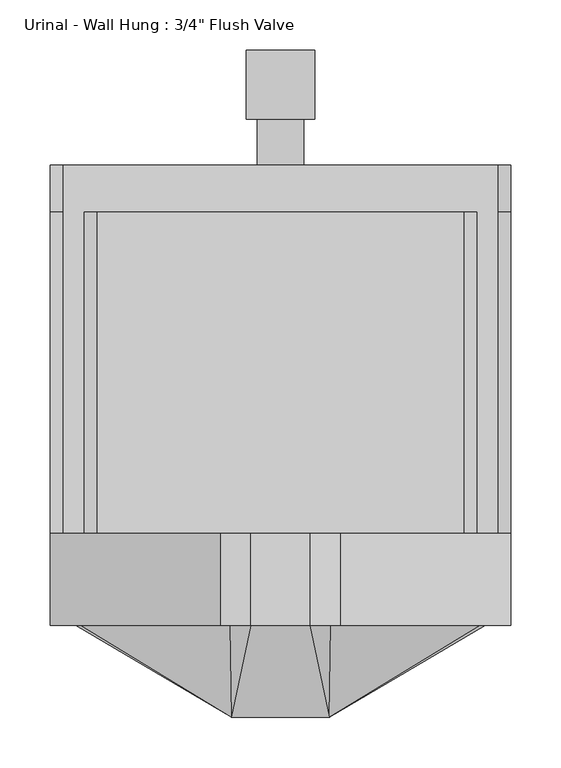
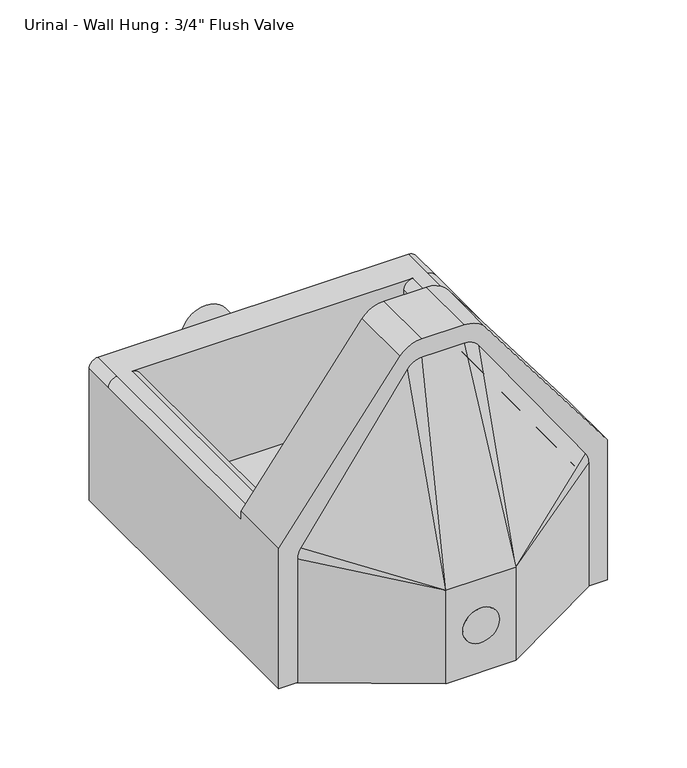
"""IFC4 building model written with IfcOpenShell, lengths in millimetres: flow terminal geometry."""

from ifc_helpers import new_model, si_unit, point, frame, frame_2d, origin, place, context, project, spatial, circle_curve, trimmed, segment, composite_curve, outline, extrude, source, transform, mapped, element, save
from ifc_brep_helpers import plane_surface, cylinder_surface, spline_surface, advanced_brep


def flow_terminal_2caf3f76(model_context):
    return source(origin(), model_context, "Body", "SolidModel", [
        extrude(outline(composite_curve([segment(trimmed(circle_curve(frame_2d((68.659375, 0.0)), 25.4), [point((68.659375, -25.4))], [point((68.659375, 25.4))], False, "CARTESIAN"), True, "CONTINUOUS"), segment(trimmed(circle_curve(frame_2d((68.659375, 0.0)), 25.4), [point((68.659375, 25.4))], [point((68.659375, -25.4))], False, "CARTESIAN"), True, "CONTINUOUS")], self_intersect=False)), frame((0.0, -182.5625, 0.0), z_axis=(0.0, 1.0, 0.0), x_axis=(0.0, 0.0, 1.0)), (0.0, 0.0, 1.0), 91.28125),
        advanced_brep(
        [(228.6, -91.28125, 0.0), (-228.6, -91.28125, 0.0), (-228.6, 365.91875, 0.0), (228.6, 365.91875, 0.0), (-59.8511275, 0.0, 429.3407681), (-29.4318712, 0.0, 444.5), (29.4318712, 0.0, 444.5), (59.8511275, 0.0, 429.3407681), (228.6, 0.0, 205.58125), (228.6, 0.0, 192.88125), (215.9, 0.0, 205.58125), (195.2625, 0.0, 205.58125), (182.5625, 0.0, 192.88125), (182.5625, 0.0, 183.5881239), (31.5245701, 0.0, 398.4625), (-31.5245701, 0.0, 398.4625), (-182.5625, 0.0, 183.5881239), (-182.5625, 0.0, 192.88125), (-195.2625, 0.0, 205.58125), (-215.9, 0.0, 205.58125), (-228.6, 0.0, 192.88125), (-228.6, 0.0, 205.58125), (-228.6, -91.28125, 205.58125), (-228.6, 319.88125, 192.88125), (-228.6, 365.91875, 192.88125), (228.6, -91.28125, 205.58125), (59.8511275, -91.28125, 429.3407681), (29.4318712, -91.28125, 444.5), (-29.4318712, -91.28125, 444.5), (-59.8511275, -91.28125, 429.3407681), (31.5245701, -91.28125, 398.4625), (182.5625, -91.28125, 183.5881239), (182.5625, -91.28125, 25.4), (-182.5625, -91.28125, 25.4), (-182.5625, -91.28125, 183.5881239), (-31.5245701, -91.28125, 398.4625), (228.6, 365.91875, 192.88125), (228.6, 319.88125, 192.88125), (-182.5625, 319.88125, 25.4), (-182.5625, 319.88125, 192.88125), (182.5625, 319.88125, 25.4), (182.5625, 319.88125, 192.88125), (195.2625, 319.88125, 205.58125), (-195.2625, 319.88125, 205.58125), (215.9, 365.91875, 205.58125), (-215.9, 365.91875, 205.58125), (-215.9, 319.88125, 205.58125), (215.9, 319.88125, 205.58125)],
        [
            (0, 1),
            (1, 2),
            (2, 3),
            (3, 0),
            (4, 5, circle_curve(frame((-29.4318712, 0.0, 406.4), z_axis=(0.0, 1.0, 0.0), x_axis=(1.0, 0.0, 0.0)), 38.1)),
            (5, 6),
            (6, 7, circle_curve(frame((29.4318712, 0.0, 406.4), z_axis=(0.0, 1.0, 0.0), x_axis=(1.0, 0.0, 0.0)), 38.1)),
            (7, 8),
            (8, 9),
            (9, 10, circle_curve(frame((215.9, 0.0, 192.88125), z_axis=(0.0, -1.0, 0.0), x_axis=(1.0, 0.0, 0.0)), 12.7)),
            (10, 11),
            (11, 12, circle_curve(frame((195.2625, 0.0, 192.88125), z_axis=(0.0, -1.0, 0.0), x_axis=(1.0, 0.0, 0.0)), 12.7)),
            (12, 13),
            (13, 14),
            (14, 15),
            (15, 16),
            (16, 17),
            (17, 18, circle_curve(frame((-195.2625, 0.0, 192.88125), z_axis=(0.0, -1.0, 0.0), x_axis=(1.0, 0.0, 0.0)), 12.7)),
            (18, 19),
            (19, 20, circle_curve(frame((-215.9, 0.0, 192.88125), z_axis=(0.0, -1.0, 0.0), x_axis=(1.0, 0.0, 0.0)), 12.7)),
            (20, 21),
            (21, 4),
            (1, 22),
            (22, 21),
            (20, 23),
            (23, 24),
            (24, 2),
            (0, 25),
            (25, 26),
            (26, 27, circle_curve(frame((29.4318712, -91.28125, 406.4), z_axis=(0.0, -1.0, 0.0), x_axis=(1.0, 0.0, 0.0)), 38.1)),
            (27, 28),
            (28, 29, circle_curve(frame((-29.4318712, -91.28125, 406.4), z_axis=(0.0, -1.0, 0.0), x_axis=(1.0, 0.0, 0.0)), 38.1)),
            (29, 22),
            (30, 31),
            (31, 32),
            (32, 33),
            (33, 34),
            (34, 35),
            (35, 30),
            (3, 36),
            (36, 37),
            (37, 9),
            (8, 25),
            (29, 4),
            (7, 26),
            (6, 27),
            (5, 28),
            (13, 31),
            (30, 14),
            (35, 15),
            (34, 16),
            (33, 38),
            (38, 39),
            (39, 17),
            (32, 40),
            (40, 38),
            (12, 41),
            (41, 40),
            (42, 43),
            (43, 39, circle_curve(frame((-195.2625, 319.88125, 192.88125), z_axis=(0.0, 1.0, 0.0), x_axis=(1.0, 0.0, 0.0)), 12.7)),
            (41, 42, circle_curve(frame((195.2625, 319.88125, 192.88125), z_axis=(0.0, 1.0, 0.0), x_axis=(1.0, 0.0, 0.0)), 12.7)),
            (44, 36, circle_curve(frame((215.9, 365.91875, 192.88125), z_axis=(0.0, 1.0, 0.0), x_axis=(1.0, 0.0, 0.0)), 12.7)),
            (24, 45, circle_curve(frame((-215.9, 365.91875, 192.88125), z_axis=(0.0, 1.0, 0.0), x_axis=(1.0, 0.0, 0.0)), 12.7)),
            (45, 44),
            (45, 46),
            (46, 19),
            (18, 43),
            (42, 11),
            (10, 47),
            (47, 44),
            (23, 46, circle_curve(frame((-215.9, 319.88125, 192.88125), z_axis=(0.0, 1.0, 0.0), x_axis=(1.0, 0.0, 0.0)), 12.7)),
            (47, 37, circle_curve(frame((215.9, 319.88125, 192.88125), z_axis=(0.0, 1.0, 0.0), x_axis=(1.0, 0.0, 0.0)), 12.7)),
        ],
        [
            plane_surface(frame((-228.6, 0.0, 0.0), z_axis=(0.0, 0.0, -1.0), x_axis=(1.0, 0.0, 0.0))),
            plane_surface(frame((228.6, 0.0, 205.58125), z_axis=(0.0, 1.0, 0.0), x_axis=(0.0, 0.0, -1.0))),
            plane_surface(frame((-228.6, 0.0, 205.58125), z_axis=(-1.0, 0.0, 0.0), x_axis=(0.0, 0.0, -1.0))),
            plane_surface(frame((-228.6, -91.28125, 205.58125), z_axis=(0.0, -1.0, 0.0), x_axis=(0.0, 0.0, -1.0))),
            plane_surface(frame((228.6, -91.28125, 205.58125), z_axis=(1.0, 0.0, 0.0), x_axis=(0.0, 0.0, -1.0))),
            plane_surface(frame((-59.8511275, -91.28125, 429.3407681), z_axis=(-0.7984056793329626, 0.0, 0.602119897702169), x_axis=(0.0, 1.0, 0.0))),
            plane_surface(frame((228.6, -91.28125, 205.58125), z_axis=(0.7984056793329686, 0.0, 0.6021198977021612), x_axis=(0.0, 1.0, 0.0))),
            cylinder_surface(frame((29.4318712, 0.0, 406.4), z_axis=(0.0, -1.0, 0.0), x_axis=(1.0, 0.0, 0.0)), 38.1),
            plane_surface(frame((29.4318712, -91.28125, 444.5), z_axis=(0.0, 0.0, 1.0), x_axis=(0.0, 1.0, 0.0))),
            cylinder_surface(frame((-29.4318712, 0.0, 406.4), z_axis=(0.0, -1.0, 0.0), x_axis=(1.0, 0.0, 0.0)), 38.1),
            plane_surface(frame((182.5625, -91.28125, 183.5881239), z_axis=(-0.8181108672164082, 0.0, -0.5750605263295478), x_axis=(0.0, 1.0, 0.0))),
            plane_surface(frame((31.5245701, -91.28125, 398.4625), z_axis=(0.0, 0.0, -1.0), x_axis=(0.0, 1.0, 0.0))),
            plane_surface(frame((-31.5245701, -91.28125, 398.4625), z_axis=(0.8181108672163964, 0.0, -0.5750605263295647), x_axis=(0.0, 1.0, 0.0))),
            plane_surface(frame((-182.5625, -91.28125, 183.5881239), z_axis=(1.0, 0.0, 0.0), x_axis=(0.0, 1.0, 0.0))),
            plane_surface(frame((-182.5625, -91.28125, 25.4), z_axis=(0.0, 0.0, 1.0), x_axis=(0.0, 1.0, 0.0))),
            plane_surface(frame((182.5625, -91.28125, 25.4), z_axis=(-1.0, 0.0, 0.0), x_axis=(0.0, 1.0, 0.0))),
            plane_surface(frame((-215.9, 319.88125, 205.58125), z_axis=(0.0, -1.0, 0.0), x_axis=(-1.0, 0.0, 0.0))),
            plane_surface(frame((-215.9, 365.91875, 205.58125), z_axis=(0.0, 1.0, 0.0), x_axis=(1.0, 0.0, 0.0))),
            plane_surface(frame((215.9, 319.88125, 205.58125), z_axis=(0.0, 0.0, 1.0), x_axis=(0.0, 1.0, 0.0))),
            cylinder_surface(frame((-215.9, 365.91875, 192.88125), z_axis=(0.0, -1.0, 0.0), x_axis=(1.0, 0.0, 0.0)), 12.7),
            cylinder_surface(frame((215.9, 365.91875, 192.88125), z_axis=(0.0, -1.0, 0.0), x_axis=(1.0, 0.0, 0.0)), 12.7),
            cylinder_surface(frame((-215.9, 319.88125, 192.88125), z_axis=(0.0, -1.0, 0.0), x_axis=(1.0, 0.0, 0.0)), 12.7),
            cylinder_surface(frame((215.9, 319.88125, 192.88125), z_axis=(0.0, -1.0, 0.0), x_axis=(1.0, 0.0, 0.0)), 12.7),
            cylinder_surface(frame((195.2625, 319.88125, 192.88125), z_axis=(0.0, -1.0, 0.0), x_axis=(1.0, 0.0, 0.0)), 12.7),
            cylinder_surface(frame((-195.2625, 319.88125, 192.88125), z_axis=(0.0, -1.0, 0.0), x_axis=(1.0, 0.0, 0.0)), 12.7),
        ],
        [
            (0, [[1, 2, 3, 4]]),
            (1, [[5, 6, 7, 8, 9, 10, 11, 12, 13, 14, 15, 16, 17, 18, 19, 20, 21, 22]]),
            (2, [[-2, 23, 24, -21, 25, 26, 27]]),
            (3, [[-1, 28, 29, 30, 31, 32, 33, -23], [34, 35, 36, 37, 38, 39]]),
            (4, [[-4, 40, 41, 42, -9, 43, -28]]),
            (5, [[-33, 44, -22, -24]]),
            (6, [[-29, -43, -8, 45]]),
            (7, [[-30, -45, -7, 46]]),
            (8, [[-31, -46, -6, 47]]),
            (9, [[-32, -47, -5, -44]]),
            (10, [[48, -34, 49, -14]]),
            (11, [[-49, -39, 50, -15]]),
            (12, [[-50, -38, 51, -16]]),
            (13, [[-51, -37, 52, 53, 54, -17]]),
            (14, [[-52, -36, 55, 56]]),
            (15, [[-48, -13, 57, 58, -55, -35]]),
            (16, [[59, 60, -53, -56, -58, 61]]),
            (17, [[62, -40, -3, -27, 63, 64]]),
            (18, [[-64, 65, 66, -19, 67, -59, 68, -11, 69, 70]]),
            (19, [[-63, -26, 71, -65]]),
            (20, [[-62, -70, 72, -41]]),
            (21, [[-66, -71, -25, -20]]),
            (22, [[-42, -72, -69, -10]]),
            (23, [[-68, -61, -57, -12]]),
            (24, [[-67, -18, -54, -60]]),
        ],
    ),
        extrude(outline(composite_curve([segment(trimmed(circle_curve(frame_2d((102.790625, 0.0)), 34.13125), [point((102.790625, -34.13125))], [point((102.790625, 34.13125))], False, "CARTESIAN"), True, "CONTINUOUS"), segment(trimmed(circle_curve(frame_2d((102.790625, 0.0)), 34.13125), [point((102.790625, 34.13125))], [point((102.790625, -34.13125))], False, "CARTESIAN"), True, "CONTINUOUS")], self_intersect=False)), frame((0.0, 411.95625, 0.0), z_axis=(0.0, 1.0, 0.0), x_axis=(0.0, 0.0, 1.0)), (0.0, 0.0, 1.0), 68.2625),
        advanced_brep(
        [(48.41875, -182.5625, 137.31875), (-48.41875, -182.5625, 137.31875), (-48.41875, -182.5625, 0.0), (48.41875, -182.5625, 0.0), (29.0508537, -91.28125, 419.1), (49.8308698, -91.28125, 408.3065374), (198.580016, -91.28125, 196.6883033), (203.2, -91.28125, 182.0817659), (203.2, -91.28125, 0.0), (-203.2, -91.28125, 0.0), (-203.2, -91.28125, 182.0817659), (-198.580016, -91.28125, 196.6883033), (-49.8308698, -91.28125, 408.3065374), (-29.0508537, -91.28125, 419.1)],
        [
            (0, 1),
            (1, 2),
            (2, 3),
            (3, 0),
            (4, 5, circle_curve(frame((29.0508537, -91.28125, 393.7), z_axis=(0.0, 1.0, 0.0), x_axis=(1.0, 0.0, 0.0)), 25.4)),
            (5, 6),
            (6, 7, circle_curve(frame((177.8, -91.28125, 182.0817659), z_axis=(0.0, 1.0, 0.0), x_axis=(1.0, 0.0, 0.0)), 25.4)),
            (7, 8),
            (8, 9),
            (9, 10),
            (10, 11, circle_curve(frame((-177.8, -91.28125, 182.0817659), z_axis=(0.0, 1.0, 0.0), x_axis=(1.0, 0.0, 0.0)), 25.4)),
            (11, 12),
            (12, 13, circle_curve(frame((-29.0508537, -91.28125, 393.7), z_axis=(0.0, 1.0, 0.0), x_axis=(1.0, 0.0, 0.0)), 25.4)),
            (13, 4),
            (13, 1),
            (0, 4),
            (12, 1),
            (11, 1),
            (10, 1),
            (9, 2),
            (8, 3),
            (7, 0),
            (6, 0),
            (5, 0),
        ],
        [
            plane_surface(frame((0.0, -182.5625, 68.659375), z_axis=(0.0, -1.0, 0.0), x_axis=(-1.0, 0.0, 0.0))),
            plane_surface(frame((0.0, -91.28125, 241.2353213), z_axis=(0.0, 1.0, 0.0), x_axis=(-1.0, 0.0, 0.0))),
            plane_surface(frame((0.0, -91.28125, 419.1), z_axis=(0.0, -0.9513290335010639, 0.3081770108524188), x_axis=(-1.0, 0.0, 0.0))),
            spline_surface(2, 1, [[(-29.0508537, -91.28125, 419.1), (-48.41875, -182.5625, 137.31875)], [(-42.244007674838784, -91.28125, 419.09999995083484), (-48.41875, -182.5625, 137.31875)], [(-49.8308698, -91.28125, 408.3065374), (-48.41875, -182.5625, 137.31875)]], [3, 3], [2, 2], [0.0, 1.0], [0.0, 1.0], weights=[[1.0, 1.0], [0.887429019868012, 0.887429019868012], [1.0, 1.0]]),
            plane_surface(frame((-124.2054429, -91.28125, 302.4974203), z_axis=(-0.41122685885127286, -0.8644875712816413, 0.28905658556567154), x_axis=(-0.5750605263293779, 0.0, -0.8181108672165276))),
            spline_surface(2, 1, [[(-198.580016, -91.28125, 196.6883033), (-48.41875, -182.5625, 137.31875)], [(-203.19999999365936, -91.28125, 190.11567498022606), (-48.41875, -182.5625, 137.31875)], [(-203.2, -91.28125, 182.0817659), (-48.41875, -182.5625, 137.31875)]], [3, 3], [2, 2], [0.0, 1.0], [0.0, 1.0], weights=[[1.0, 1.0], [0.9534439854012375, 0.9534439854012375], [1.0, 1.0]]),
            plane_surface(frame((-203.2, -91.28125, 91.040883), z_axis=(-0.50798501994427, -0.8613659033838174, 0.0), x_axis=(0.0, 0.0, -1.0))),
            plane_surface(frame((0.0, -91.28125, 0.0), z_axis=(0.0, 0.0, -1.0), x_axis=(1.0, 0.0, 0.0))),
            plane_surface(frame((203.2, -91.28125, 91.040883), z_axis=(0.5079850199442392, -0.8613659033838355, 0.0), x_axis=(0.0, 0.0, 1.0))),
            spline_surface(2, 1, [[(203.2, -91.28125, 182.0817659), (48.41875, -182.5625, 137.31875)], [(203.2000000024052, -91.28125, 190.11567498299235), (48.41875, -182.5625, 137.31875)], [(198.580016, -91.28125, 196.6883033), (48.41875, -182.5625, 137.31875)]], [3, 3], [2, 2], [0.0, 1.0], [0.0, 1.0], weights=[[1.0, 1.0], [0.9534439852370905, 0.9534439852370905], [1.0, 1.0]]),
            plane_surface(frame((124.2054429, -91.28125, 302.4974203), z_axis=(0.41122685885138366, -0.8644875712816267, 0.2890565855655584), x_axis=(-0.5750605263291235, 0.0, 0.8181108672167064))),
            spline_surface(2, 1, [[(49.8308698, -91.28125, 408.3065374), (48.41875, -182.5625, 137.31875)], [(42.244007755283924, -91.28125, 419.1000001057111), (48.41875, -182.5625, 137.31875)], [(29.0508537, -91.28125, 419.1), (48.41875, -182.5625, 137.31875)]], [3, 3], [2, 2], [0.0, 1.0], [0.0, 1.0], weights=[[1.0, 1.0], [0.8874290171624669, 0.8874290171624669], [1.0, 1.0]]),
        ],
        [
            (0, [[1, 2, 3, 4]]),
            (1, [[5, 6, 7, 8, 9, 10, 11, 12, 13, 14]]),
            (2, [[-14, 15, -1, 16]]),
            (3, [[-13, 17, -15]]),
            (4, [[-12, 18, -17]]),
            (5, [[-11, 19, -18]]),
            (6, [[-10, 20, -2, -19]]),
            (7, [[-9, 21, -3, -20]]),
            (8, [[-8, 22, -4, -21]]),
            (9, [[-7, 23, -22]]),
            (10, [[-6, 24, -23]]),
            (11, [[-5, -16, -24]]),
        ],
    ),
        extrude(outline(composite_curve([segment(trimmed(circle_curve(frame_2d((102.790625, 0.0)), 23.01875), [point((102.790625, -23.01875))], [point((102.790625, 23.01875))], False, "CARTESIAN"), True, "CONTINUOUS"), segment(trimmed(circle_curve(frame_2d((102.790625, 0.0)), 23.01875), [point((102.790625, 23.01875))], [point((102.790625, -23.01875))], False, "CARTESIAN"), True, "CONTINUOUS")], self_intersect=False)), frame((0.0, 365.91875, 0.0), z_axis=(0.0, 1.0, 0.0), x_axis=(0.0, 0.0, 1.0)), (0.0, 0.0, 1.0), 46.0375),
    ])


if __name__ == "__main__":
    model = new_model("IFC4")
    model_context = context("Model", 3, world=origin())
    ifc_project = project(units=[si_unit("LENGTHUNIT", "METRE", prefix="MILLI")], contexts=[model_context])
    site = spatial("IfcSite", under=ifc_project)
    building = spatial("IfcBuilding", under=site)
    placement = place(None, origin())
    flow_terminal_shape = flow_terminal_2caf3f76(model_context)
    element("IfcFlowTerminal", 1, ObjectType="Urinal - Wall Hung : 3/4\" Flush Valve", at=placement, inside=building, context=model_context, shape_type="MappedRepresentation", body=[
        mapped(flow_terminal_shape, transform((0.0, 0.0, 0.0), x_axis=(1.0, 0.0, 0.0), y_axis=(0.0, 1.0, 0.0), z_axis=(0.0, 0.0, 1.0))),
    ])
    save(model, "model.ifc")
